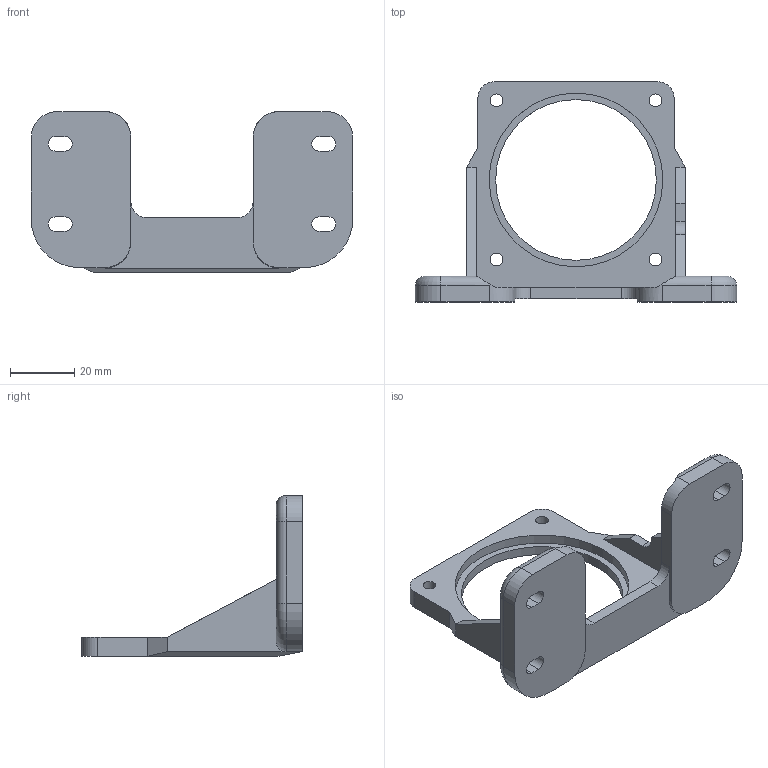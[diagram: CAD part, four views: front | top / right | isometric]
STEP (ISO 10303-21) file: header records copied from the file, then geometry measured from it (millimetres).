
FILE_DESCRIPTION((''),'2;1');
FILE_NAME('C:\Documents and Settings\Administrator\바탕 화면\SPL-6A.stp','2014-06-20T10:32:58',('kdhkdh'),(''),'Autodesk Inventor 2011','Autodesk Inventor 2011','');
FILE_SCHEMA(('AUTOMOTIVE_DESIGN { 1 0 10303 214 1 1 1 1 }'));
Length unit declared in the file: millimetre
Products named in the file (1): SPL-6A(홈)
Bounding box: 100 x 68.5 x 50 mm (x, y, z)
Volume: 34176 mm3; surface area: 16550.9 mm2
Topology: 1 solids, 1 shells, 86 faces, 227 edges, 144 vertices
Faces by surface type: plane 45, cylinder 33, cone 4, torus 4
Full cylindrical faces by diameter (mm): 4 x4, 50 x1, 54 x1
Entity records: 2665 total; most frequent: DIRECTION 465, CARTESIAN_POINT 454, ORIENTED_EDGE 434, EDGE_CURVE 217, AXIS2_PLACEMENT_3D 163, VERTEX_POINT 144, VECTOR 139, LINE 139
